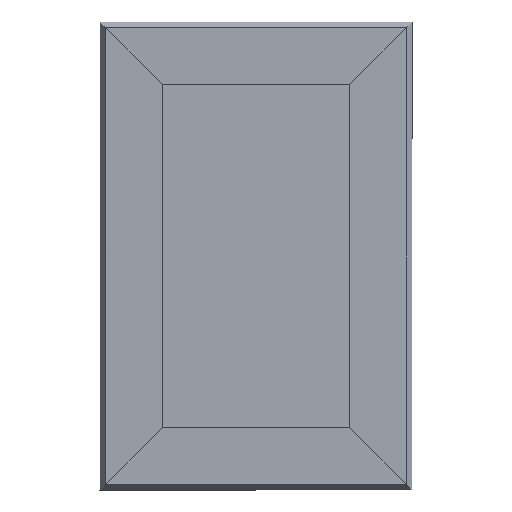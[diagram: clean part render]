
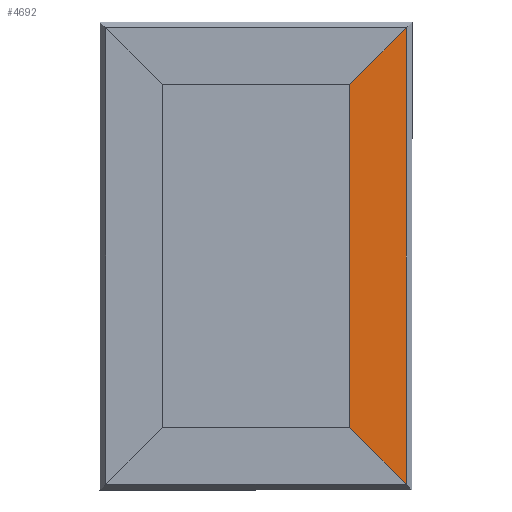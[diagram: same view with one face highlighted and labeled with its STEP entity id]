
A CAD part, front view. The second image highlights one B-rep face of the part: STEP entity #4692.
In plain terms, the highlighted planar face has unit normal (0, -1, 0).
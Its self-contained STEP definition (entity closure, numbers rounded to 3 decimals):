
#31 = CARTESIAN_POINT ( 'NONE',  ( 385.296, 0., 585.296 ) ) ;
#82 = VECTOR ( 'NONE', #3284, 1000. ) ;
#169 = DIRECTION ( 'NONE',  ( 0., 0., 1. ) ) ;
#477 = CARTESIAN_POINT ( 'NONE',  ( 240., 0., -600. ) ) ;
#780 = DIRECTION ( 'NONE',  ( -0.707, 0., 0.707 ) ) ;
#900 = VERTEX_POINT ( 'NONE', #31 ) ;
#927 = CARTESIAN_POINT ( 'NONE',  ( 240., 0., -600. ) ) ;
#1265 = FACE_OUTER_BOUND ( 'NONE', #2629, .T. ) ;
#1288 = CARTESIAN_POINT ( 'NONE',  ( -280., 0., -80. ) ) ;
#1321 = ORIENTED_EDGE ( 'NONE', *, *, #1678, .F. ) ;
#1678 = EDGE_CURVE ( 'NONE', #3961, #3203, #2024, .T. ) ;
#1682 = PLANE ( 'NONE',  #2575 ) ;
#1729 = EDGE_CURVE ( 'NONE', #2290, #900, #2486, .T. ) ;
#2024 = LINE ( 'NONE', #477, #82 ) ;
#2290 = VERTEX_POINT ( 'NONE', #4499 ) ;
#2486 = LINE ( 'NONE', #4068, #3708 ) ;
#2575 = AXIS2_PLACEMENT_3D ( 'NONE', #927, #4749, #3200 ) ;
#2629 = EDGE_LOOP ( 'NONE', ( #3320, #1321, #3192, #4388 ) ) ;
#2747 = LINE ( 'NONE', #4326, #3890 ) ;
#2783 = LINE ( 'NONE', #1288, #2988 ) ;
#2863 = DIRECTION ( 'NONE',  ( 0.707, 0., 0.707 ) ) ;
#2988 = VECTOR ( 'NONE', #2863, 1000. ) ;
#3192 = ORIENTED_EDGE ( 'NONE', *, *, #3412, .F. ) ;
#3200 = DIRECTION ( 'NONE',  ( -1., 0., 0. ) ) ;
#3203 = VERTEX_POINT ( 'NONE', #4636 ) ;
#3284 = DIRECTION ( 'NONE',  ( 0., 0., 1. ) ) ;
#3320 = ORIENTED_EDGE ( 'NONE', *, *, #4728, .F. ) ;
#3412 = EDGE_CURVE ( 'NONE', #2290, #3961, #2747, .T. ) ;
#3708 = VECTOR ( 'NONE', #169, 1000. ) ;
#3890 = VECTOR ( 'NONE', #780, 1000. ) ;
#3961 = VERTEX_POINT ( 'NONE', #4970 ) ;
#4068 = CARTESIAN_POINT ( 'NONE',  ( 385.296, 0., -600. ) ) ;
#4326 = CARTESIAN_POINT ( 'NONE',  ( 320., 0., -520. ) ) ;
#4388 = ORIENTED_EDGE ( 'NONE', *, *, #1729, .T. ) ;
#4499 = CARTESIAN_POINT ( 'NONE',  ( 385.296, 0., -585.296 ) ) ;
#4636 = CARTESIAN_POINT ( 'NONE',  ( 240., 0., 440. ) ) ;
#4692 = ADVANCED_FACE ( 'NONE', ( #1265 ), #1682, .F. ) ;
#4728 = EDGE_CURVE ( 'NONE', #3203, #900, #2783, .T. ) ;
#4749 = DIRECTION ( 'NONE',  ( 0., 1., 0. ) ) ;
#4970 = CARTESIAN_POINT ( 'NONE',  ( 240., 0., -440. ) ) ;
